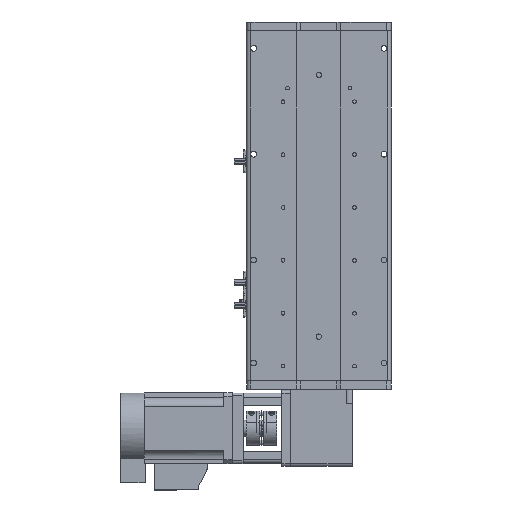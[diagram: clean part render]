
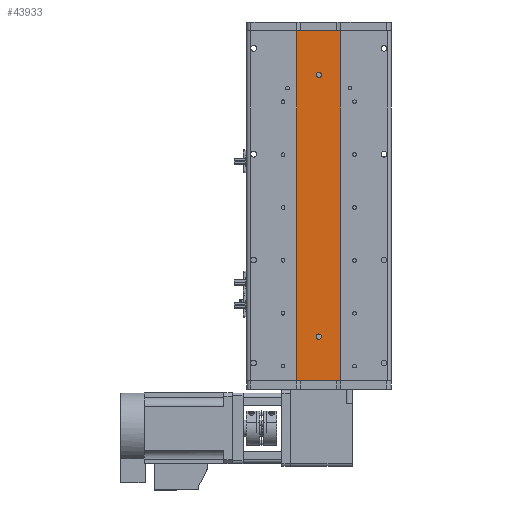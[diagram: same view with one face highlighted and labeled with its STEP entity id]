
A CAD part, front view. The second image highlights one B-rep face of the part: STEP entity #43933.
In plain terms, the highlighted planar face has unit normal (0, -1, 0).
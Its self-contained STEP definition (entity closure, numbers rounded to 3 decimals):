
#946 = DIRECTION ( 'NONE',  ( 0., 1., 0. ) ) ;
#1474 = CARTESIAN_POINT ( 'NONE',  ( 0., 1., 151.5 ) ) ;
#1978 = DIRECTION ( 'NONE',  ( 0., 0., -1. ) ) ;
#2070 = VERTEX_POINT ( 'NONE', #1474 ) ;
#2382 = CARTESIAN_POINT ( 'NONE',  ( 0., 1., 148.5 ) ) ;
#4158 = VECTOR ( 'NONE', #14863, 1000. ) ;
#4997 = VERTEX_POINT ( 'NONE', #26389 ) ;
#5115 = VECTOR ( 'NONE', #24372, 1000. ) ;
#5842 = DIRECTION ( 'NONE',  ( 0., 0., 1. ) ) ;
#6144 = DIRECTION ( 'NONE',  ( 0., 0., 1. ) ) ;
#7136 = VERTEX_POINT ( 'NONE', #9948 ) ;
#7486 = ORIENTED_EDGE ( 'NONE', *, *, #38567, .F. ) ;
#8509 = CARTESIAN_POINT ( 'NONE',  ( 0., 1., -148.5 ) ) ;
#9948 = CARTESIAN_POINT ( 'NONE',  ( 0., 1., -145.5 ) ) ;
#11384 = AXIS2_PLACEMENT_3D ( 'NONE', #8509, #32372, #11938 ) ;
#11526 = DIRECTION ( 'NONE',  ( 0., 1., 0. ) ) ;
#11581 = EDGE_CURVE ( 'NONE', #2070, #11679, #24191, .T. ) ;
#11679 = VERTEX_POINT ( 'NONE', #39702 ) ;
#11938 = DIRECTION ( 'NONE',  ( 0., 0., 1. ) ) ;
#12448 = FACE_BOUND ( 'NONE', #26565, .T. ) ;
#12627 = CARTESIAN_POINT ( 'NONE',  ( 0., 1., -151.5 ) ) ;
#12826 = PLANE ( 'NONE',  #30207 ) ;
#13497 = FACE_OUTER_BOUND ( 'NONE', #30701, .T. ) ;
#14863 = DIRECTION ( 'NONE',  ( 1., 0., 0. ) ) ;
#14950 = AXIS2_PLACEMENT_3D ( 'NONE', #31969, #11526, #35389 ) ;
#15003 = VECTOR ( 'NONE', #1978, 1000. ) ;
#15199 = LINE ( 'NONE', #34517, #5115 ) ;
#15355 = CARTESIAN_POINT ( 'NONE',  ( 25., 1., -198.5 ) ) ;
#16045 = CIRCLE ( 'NONE', #11384, 3. ) ;
#16484 = EDGE_CURVE ( 'NONE', #32658, #7136, #38210, .T. ) ;
#18759 = LINE ( 'NONE', #36070, #35818 ) ;
#19139 = CARTESIAN_POINT ( 'NONE',  ( -25., 1., 198.5 ) ) ;
#19350 = EDGE_CURVE ( 'NONE', #21969, #41498, #33164, .T. ) ;
#20713 = ORIENTED_EDGE ( 'NONE', *, *, #27723, .T. ) ;
#21111 = ORIENTED_EDGE ( 'NONE', *, *, #29454, .T. ) ;
#21419 = CARTESIAN_POINT ( 'NONE',  ( 0., 1., -148.5 ) ) ;
#21644 = CARTESIAN_POINT ( 'NONE',  ( 25., 1., 198.5 ) ) ;
#21969 = VERTEX_POINT ( 'NONE', #27039 ) ;
#22469 = ORIENTED_EDGE ( 'NONE', *, *, #43136, .T. ) ;
#24191 = CIRCLE ( 'NONE', #14950, 3. ) ;
#24372 = DIRECTION ( 'NONE',  ( 1., 0., 0. ) ) ;
#24676 = CARTESIAN_POINT ( 'NONE',  ( -25., 1., -198.5 ) ) ;
#24817 = DIRECTION ( 'NONE',  ( 0., 0., 1. ) ) ;
#26230 = DIRECTION ( 'NONE',  ( 0., 1., 0. ) ) ;
#26389 = CARTESIAN_POINT ( 'NONE',  ( 25., 1., 198.5 ) ) ;
#26511 = DIRECTION ( 'NONE',  ( 0., 1., 0. ) ) ;
#26565 = EDGE_LOOP ( 'NONE', ( #21111, #30447 ) ) ;
#27039 = CARTESIAN_POINT ( 'NONE',  ( -25., 1., 198.5 ) ) ;
#27600 = EDGE_CURVE ( 'NONE', #4997, #30882, #18759, .T. ) ;
#27723 = EDGE_CURVE ( 'NONE', #7136, #32658, #16045, .T. ) ;
#29379 = DIRECTION ( 'NONE',  ( 0., 0., -1. ) ) ;
#29454 = EDGE_CURVE ( 'NONE', #11679, #2070, #31956, .T. ) ;
#30207 = AXIS2_PLACEMENT_3D ( 'NONE', #40130, #26511, #6144 ) ;
#30447 = ORIENTED_EDGE ( 'NONE', *, *, #11581, .T. ) ;
#30701 = EDGE_LOOP ( 'NONE', ( #22469, #43411, #7486, #40539 ) ) ;
#30882 = VERTEX_POINT ( 'NONE', #15355 ) ;
#31091 = EDGE_LOOP ( 'NONE', ( #35657, #20713 ) ) ;
#31956 = CIRCLE ( 'NONE', #37395, 3. ) ;
#31969 = CARTESIAN_POINT ( 'NONE',  ( 0., 1., 148.5 ) ) ;
#32372 = DIRECTION ( 'NONE',  ( 0., 1., 0. ) ) ;
#32658 = VERTEX_POINT ( 'NONE', #12627 ) ;
#33164 = LINE ( 'NONE', #19139, #15003 ) ;
#34517 = CARTESIAN_POINT ( 'NONE',  ( 25., 1., -198.5 ) ) ;
#35389 = DIRECTION ( 'NONE',  ( 0., 0., 1. ) ) ;
#35657 = ORIENTED_EDGE ( 'NONE', *, *, #16484, .T. ) ;
#35818 = VECTOR ( 'NONE', #29379, 1000. ) ;
#36070 = CARTESIAN_POINT ( 'NONE',  ( 25., 1., 198.5 ) ) ;
#36782 = AXIS2_PLACEMENT_3D ( 'NONE', #21419, #946, #24817 ) ;
#37395 = AXIS2_PLACEMENT_3D ( 'NONE', #2382, #26230, #5842 ) ;
#38210 = CIRCLE ( 'NONE', #36782, 3. ) ;
#38567 = EDGE_CURVE ( 'NONE', #21969, #4997, #40412, .T. ) ;
#39668 = FACE_BOUND ( 'NONE', #31091, .T. ) ;
#39702 = CARTESIAN_POINT ( 'NONE',  ( 0., 1., 145.5 ) ) ;
#40130 = CARTESIAN_POINT ( 'NONE',  ( 25., 1., 198.5 ) ) ;
#40412 = LINE ( 'NONE', #21644, #4158 ) ;
#40539 = ORIENTED_EDGE ( 'NONE', *, *, #19350, .T. ) ;
#41498 = VERTEX_POINT ( 'NONE', #24676 ) ;
#43136 = EDGE_CURVE ( 'NONE', #41498, #30882, #15199, .T. ) ;
#43411 = ORIENTED_EDGE ( 'NONE', *, *, #27600, .F. ) ;
#43933 = ADVANCED_FACE ( 'NONE', ( #39668, #12448, #13497 ), #12826, .F. ) ;
